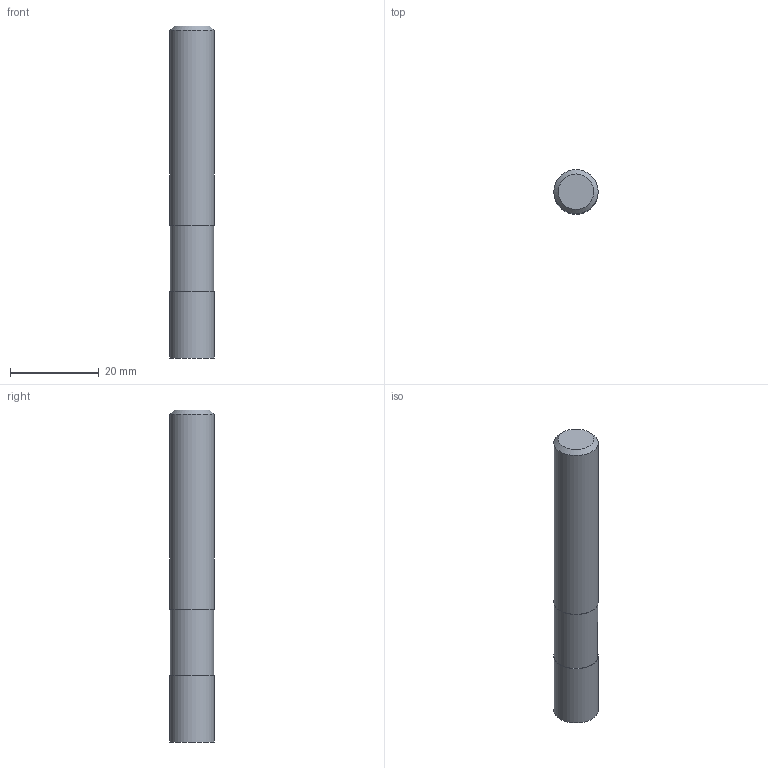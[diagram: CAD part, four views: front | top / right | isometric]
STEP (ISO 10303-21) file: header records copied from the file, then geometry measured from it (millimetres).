
FILE_DESCRIPTION((''),'2;1');
FILE_NAME('C:\Users\nsx150\AppData\Local\Temp\Mastercam 2021\EUJSUNXURU\TEMP.step','2021-04-22T10:35:41',(''),(''),'STEP Write','Mastercam 2021 ... CNC Software, Inc.','');
FILE_SCHEMA(('AUTOMOTIVE_DESIGN'));
Length unit declared in the file: millimetre
Products named in the file (1): None
Bounding box: 10 x 10 x 75 mm (x, y, z)
Volume: 5829.2 mm3; surface area: 2641.2 mm2
Topology: 2 solids, 2 shells, 9 faces, 11 edges, 7 vertices
Faces by surface type: plane 5, cylinder 3, cone 1
Full cylindrical faces by diameter (mm): 9.8 x1, 10 x2
Entity records: 211 total; most frequent: DIRECTION 36, CARTESIAN_POINT 25, AXIS2_PLACEMENT_3D 18, ORIENTED_EDGE 14, EDGE_LOOP 14, STYLED_ITEM 12, ADVANCED_FACE 9, FACE_BOUND 8
